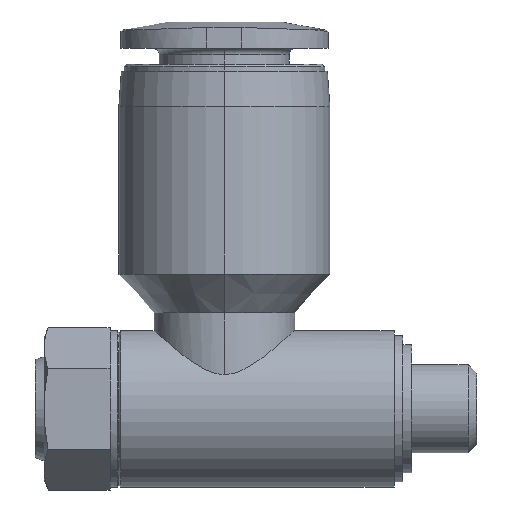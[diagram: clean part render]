
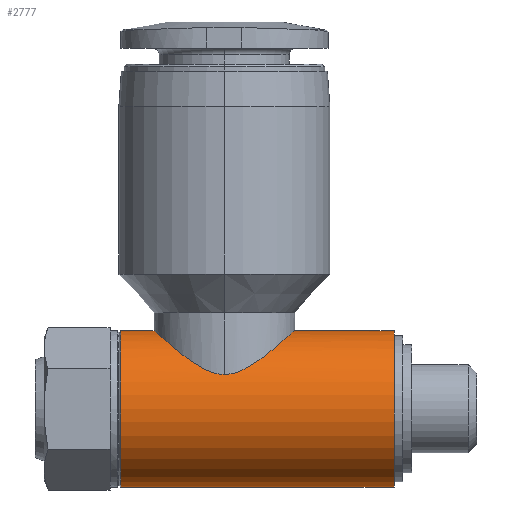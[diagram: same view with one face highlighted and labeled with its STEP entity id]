
A CAD part, left-side view. The second image highlights one B-rep face of the part: STEP entity #2777.
In plain terms, the highlighted cylindrical face has radius 4.45 mm (diameter 8.9 mm), a partial arc.
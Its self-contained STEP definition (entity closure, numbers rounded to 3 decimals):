
#3 = EDGE_CURVE ( 'NONE', #449, #2194, #831, .T. ) ;
#22 = VERTEX_POINT ( 'NONE', #917 ) ;
#27 = CYLINDRICAL_SURFACE ( 'NONE', #1774, 4.45 ) ;
#30 = CARTESIAN_POINT ( 'NONE',  ( -3.204, 2.407, 3.095 ) ) ;
#53 = CARTESIAN_POINT ( 'NONE',  ( -2.102, -3.406, 3.924 ) ) ;
#221 = ORIENTED_EDGE ( 'NONE', *, *, #486, .T. ) ;
#251 = CARTESIAN_POINT ( 'NONE',  ( -3.585, 1.792, 2.642 ) ) ;
#262 = CARTESIAN_POINT ( 'NONE',  ( -3.962, -0.565, 2.026 ) ) ;
#269 = DIRECTION ( 'NONE',  ( 0., 1., 0. ) ) ;
#277 = CARTESIAN_POINT ( 'NONE',  ( -1.754, -3.597, 4.092 ) ) ;
#293 = CARTESIAN_POINT ( 'NONE',  ( 0., 5.9, -4.45 ) ) ;
#302 = DIRECTION ( 'NONE',  ( 0., 1., 0. ) ) ;
#327 = ORIENTED_EDGE ( 'NONE', *, *, #2788, .F. ) ;
#424 = ORIENTED_EDGE ( 'NONE', *, *, #1882, .T. ) ;
#449 = VERTEX_POINT ( 'NONE', #293 ) ;
#459 = CARTESIAN_POINT ( 'NONE',  ( -0.571, 3.962, 4.416 ) ) ;
#472 = CARTESIAN_POINT ( 'NONE',  ( -3.857, 1.093, 2.223 ) ) ;
#481 = CARTESIAN_POINT ( 'NONE',  ( -3.857, -1.094, 2.223 ) ) ;
#486 = EDGE_CURVE ( 'NONE', #578, #2194, #1030, .T. ) ;
#496 = CARTESIAN_POINT ( 'NONE',  ( -1.126, -3.849, 4.314 ) ) ;
#541 = CARTESIAN_POINT ( 'NONE',  ( 0., 5.9, 0. ) ) ;
#563 = CARTESIAN_POINT ( 'NONE',  ( 0., -9.65, 0. ) ) ;
#578 = VERTEX_POINT ( 'NONE', #728 ) ;
#606 = VERTEX_POINT ( 'NONE', #1826 ) ;
#645 = EDGE_CURVE ( 'NONE', #1662, #606, #1054, .T. ) ;
#661 = ORIENTED_EDGE ( 'NONE', *, *, #3, .F. ) ;
#672 = CARTESIAN_POINT ( 'NONE',  ( -1.12, 3.85, 4.316 ) ) ;
#688 = CARTESIAN_POINT ( 'NONE',  ( -3.962, 0.564, 2.025 ) ) ;
#699 = CARTESIAN_POINT ( 'NONE',  ( -3.584, -1.793, 2.643 ) ) ;
#714 = CARTESIAN_POINT ( 'NONE',  ( -0.29, -4., 4.45 ) ) ;
#720 = CARTESIAN_POINT ( 'NONE',  ( 0., 5.9, 4.45 ) ) ;
#728 = CARTESIAN_POINT ( 'NONE',  ( 0., 4., 4.45 ) ) ;
#785 = DIRECTION ( 'NONE',  ( 0., 0., 1. ) ) ;
#831 = CIRCLE ( 'NONE', #2522, 4.45 ) ;
#903 = CARTESIAN_POINT ( 'NONE',  ( -1.876, 3.543, 4.044 ) ) ;
#914 = CARTESIAN_POINT ( 'NONE',  ( -4., 0.144, 1.95 ) ) ;
#917 = CARTESIAN_POINT ( 'NONE',  ( 0., -9.65, -4.45 ) ) ;
#922 = CARTESIAN_POINT ( 'NONE',  ( -3.204, -2.407, 3.095 ) ) ;
#943 = B_SPLINE_CURVE_WITH_KNOTS ( 'NONE', 3,
 ( #1549, #1757, #1766, #459, #1987, #672, #2207, #903, #2411, #1114, #2640, #1329, #30, #1560, #251, #1777, #472, #2000, #688, #2217, #914, #2425 ),
 .UNSPECIFIED., .F., .F.,
 ( 4, 2, 2, 2, 2, 2, 2, 2, 2, 2, 4 ),
 ( 0.014, 0.014, 0.015, 0.015, 0.016, 0.017, 0.018, 0.019, 0.02, 0.02, 0.02 ),
 .UNSPECIFIED. ) ;
#959 = CARTESIAN_POINT ( 'NONE',  ( -4., -0.145, 1.95 ) ) ;
#1030 = LINE ( 'NONE', #1385, #1619 ) ;
#1054 = B_SPLINE_CURVE_WITH_KNOTS ( 'NONE', 3,
 ( #2702, #959, #2424, #262, #1792, #481, #2011, #699, #2228, #922, #2439, #1141, #2662, #1354, #53, #1584, #277, #1803, #496, #2026, #714, #2239 ),
 .UNSPECIFIED., .F., .F.,
 ( 4, 2, 2, 2, 2, 2, 2, 2, 2, 2, 4 ),
 ( 0.02, 0.021, 0.021, 0.022, 0.023, 0.024, 0.025, 0.025, 0.026, 0.026, 0.027 ),
 .UNSPECIFIED. ) ;
#1096 = DIRECTION ( 'NONE',  ( 0., 1., 0. ) ) ;
#1114 = CARTESIAN_POINT ( 'NONE',  ( -2.523, 3.114, 3.674 ) ) ;
#1141 = CARTESIAN_POINT ( 'NONE',  ( -2.711, -2.952, 3.536 ) ) ;
#1194 = FACE_OUTER_BOUND ( 'NONE', #1212, .T. ) ;
#1212 = EDGE_LOOP ( 'NONE', ( #2482, #424, #2565, #2138, #327, #221, #661 ) ) ;
#1232 = VECTOR ( 'NONE', #2174, 1000. ) ;
#1259 = CARTESIAN_POINT ( 'NONE',  ( -4., 0., 1.95 ) ) ;
#1301 = CARTESIAN_POINT ( 'NONE',  ( 0., -8.8, 4.45 ) ) ;
#1329 = CARTESIAN_POINT ( 'NONE',  ( -3.051, 2.599, 3.247 ) ) ;
#1354 = CARTESIAN_POINT ( 'NONE',  ( -2.21, -3.336, 3.864 ) ) ;
#1385 = CARTESIAN_POINT ( 'NONE',  ( 0., -8.8, 4.45 ) ) ;
#1421 = EDGE_CURVE ( 'NONE', #2639, #606, #2320, .T. ) ;
#1447 = AXIS2_PLACEMENT_3D ( 'NONE', #563, #2092, #785 ) ;
#1549 = CARTESIAN_POINT ( 'NONE',  ( 0., 4., 4.45 ) ) ;
#1560 = CARTESIAN_POINT ( 'NONE',  ( -3.47, 2.004, 2.793 ) ) ;
#1564 = EDGE_CURVE ( 'NONE', #22, #449, #2616, .T. ) ;
#1584 = CARTESIAN_POINT ( 'NONE',  ( -1.874, -3.536, 4.038 ) ) ;
#1619 = VECTOR ( 'NONE', #302, 1000. ) ;
#1662 = VERTEX_POINT ( 'NONE', #1259 ) ;
#1757 = CARTESIAN_POINT ( 'NONE',  ( -0.143, 4., 4.45 ) ) ;
#1766 = CARTESIAN_POINT ( 'NONE',  ( -0.287, 3.992, 4.443 ) ) ;
#1774 = AXIS2_PLACEMENT_3D ( 'NONE', #2615, #1096, #2395 ) ;
#1777 = CARTESIAN_POINT ( 'NONE',  ( -3.778, 1.337, 2.358 ) ) ;
#1792 = CARTESIAN_POINT ( 'NONE',  ( -3.94, -0.703, 2.069 ) ) ;
#1803 = CARTESIAN_POINT ( 'NONE',  ( -1.386, -3.762, 4.237 ) ) ;
#1826 = CARTESIAN_POINT ( 'NONE',  ( 0., -4., 4.45 ) ) ;
#1882 = EDGE_CURVE ( 'NONE', #22, #2639, #2451, .T. ) ;
#1987 = CARTESIAN_POINT ( 'NONE',  ( -0.71, 3.939, 4.395 ) ) ;
#2000 = CARTESIAN_POINT ( 'NONE',  ( -3.94, 0.701, 2.069 ) ) ;
#2004 = DIRECTION ( 'NONE',  ( 0., 0., 1. ) ) ;
#2006 = CARTESIAN_POINT ( 'NONE',  ( 0., -8.8, -4.45 ) ) ;
#2011 = CARTESIAN_POINT ( 'NONE',  ( -3.779, -1.336, 2.357 ) ) ;
#2026 = CARTESIAN_POINT ( 'NONE',  ( -0.573, -3.969, 4.422 ) ) ;
#2062 = VECTOR ( 'NONE', #2657, 1000. ) ;
#2092 = DIRECTION ( 'NONE',  ( 0., 1., 0. ) ) ;
#2138 = ORIENTED_EDGE ( 'NONE', *, *, #645, .F. ) ;
#2174 = DIRECTION ( 'NONE',  ( 0., 1., 0. ) ) ;
#2194 = VERTEX_POINT ( 'NONE', #720 ) ;
#2207 = CARTESIAN_POINT ( 'NONE',  ( -1.386, 3.762, 4.237 ) ) ;
#2212 = CARTESIAN_POINT ( 'NONE',  ( 0., -9.65, 4.45 ) ) ;
#2217 = CARTESIAN_POINT ( 'NONE',  ( -3.992, 0.286, 1.966 ) ) ;
#2228 = CARTESIAN_POINT ( 'NONE',  ( -3.469, -2.005, 2.794 ) ) ;
#2239 = CARTESIAN_POINT ( 'NONE',  ( 0., -4., 4.45 ) ) ;
#2320 = LINE ( 'NONE', #1301, #1232 ) ;
#2395 = DIRECTION ( 'NONE',  ( 0., 0., 1. ) ) ;
#2411 = CARTESIAN_POINT ( 'NONE',  ( -2.106, 3.41, 3.928 ) ) ;
#2424 = CARTESIAN_POINT ( 'NONE',  ( -3.992, -0.287, 1.966 ) ) ;
#2425 = CARTESIAN_POINT ( 'NONE',  ( -4., 0., 1.95 ) ) ;
#2439 = CARTESIAN_POINT ( 'NONE',  ( -3.054, -2.595, 3.245 ) ) ;
#2451 = CIRCLE ( 'NONE', #1447, 4.45 ) ;
#2482 = ORIENTED_EDGE ( 'NONE', *, *, #1564, .F. ) ;
#2522 = AXIS2_PLACEMENT_3D ( 'NONE', #541, #269, #2004 ) ;
#2565 = ORIENTED_EDGE ( 'NONE', *, *, #1421, .T. ) ;
#2615 = CARTESIAN_POINT ( 'NONE',  ( 0., -8.8, 0. ) ) ;
#2616 = LINE ( 'NONE', #2006, #2062 ) ;
#2639 = VERTEX_POINT ( 'NONE', #2212 ) ;
#2640 = CARTESIAN_POINT ( 'NONE',  ( -2.711, 2.952, 3.536 ) ) ;
#2657 = DIRECTION ( 'NONE',  ( 0., 1., 0. ) ) ;
#2662 = CARTESIAN_POINT ( 'NONE',  ( -2.522, -3.115, 3.675 ) ) ;
#2702 = CARTESIAN_POINT ( 'NONE',  ( -4., 0., 1.95 ) ) ;
#2777 = ADVANCED_FACE ( 'CYL_0', ( #1194 ), #27, .T. ) ;
#2788 = EDGE_CURVE ( 'NONE', #578, #1662, #943, .T. ) ;
